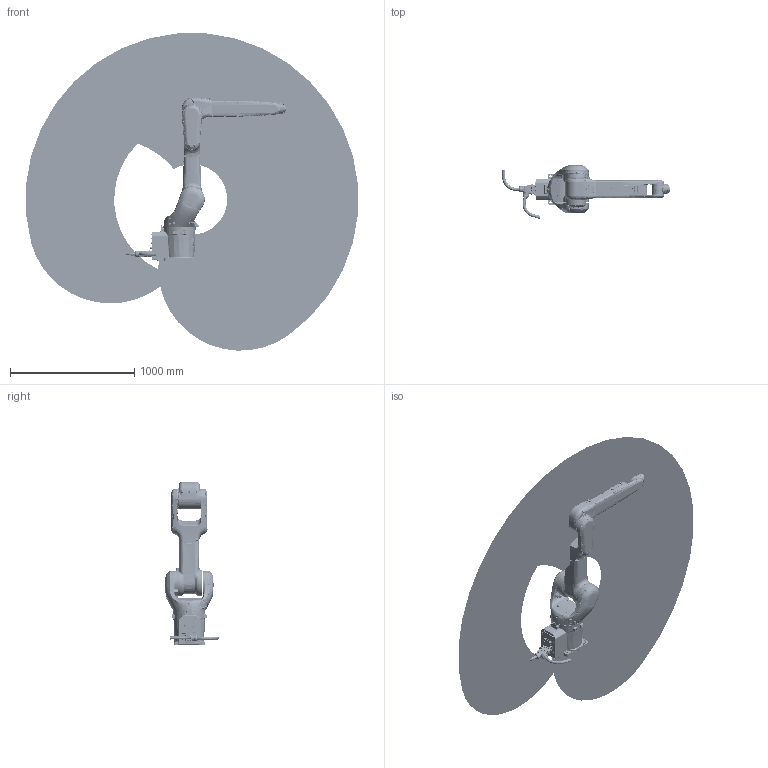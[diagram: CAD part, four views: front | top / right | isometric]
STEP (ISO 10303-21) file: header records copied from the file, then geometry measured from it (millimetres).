
FILE_DESCRIPTION(/* description */ (''),/* implementation_level */ '2;1');
FILE_NAME(/* name */ 'NB12s-1214 简化模型(20220421).stp',/* time_stamp */ '2022-04-21T13:50:43+08:00',/* author */ (''),/* organization */ (''),/* preprocessor_version */ 'ST-DEVELOPER v16',/* originating_system */ 'SIEMENS PLM Software NX 10.0',/* authorisation */ '');
FILE_SCHEMA (('CONFIG_CONTROL_DESIGN'));
Products named in the file (9): NB12s-3DWork-A; NB12-shuchu-A; NB12-shouwan-A; NB12-xiaobiqian-Alogo; NB12-xiaobihou-A; NB12-dabi-A; NB12-yao-A; NB12-base-A; NB12s-1214 简化模型(20220421)
Assembly tree (8 placements, depth 2):
  NB12s-1214 简化模型(20220421)
    NB12-base-A
    NB12-yao-A
    NB12-dabi-A
    NB12-xiaobihou-A
    NB12-xiaobiqian-Alogo
    NB12-shouwan-A
    NB12-shuchu-A
    NB12s-3DWork-A
Bounding box: 2673.57 x 432.33 x 2555.1 mm (x, y, z)
Volume: 48085691.1 mm3; surface area: 7141924.9 mm2
Topology: 37 solids, 94 shells, 10229 faces, 23791 edges, 14082 vertices
Faces by surface type: plane 4574, cylinder 1799, cone 1447, bspline 1160, extrusion 601, torus 572, sphere 70, revolution 6
Full cylindrical faces by diameter (mm): 0.8 x20, 1.1 x20, 2.5 x4, 3.3 x14, 3.464 x10, 3.5 x4, 3.838 x32, 4.1 x4, 4.2 x21, 4.5 x41, 4.826 x4, 5 x9, 5.13 x8, 5.5 x32, 5.795 x2, 6.5 x16, 6.8 x2, 7 x96, 7.76 x5, 7.782 x2, 8.4 x14, 8.5 x5, 8.6 x2, 9 x2, 9.728 x1, 10 x7, 10.1 x1, 10.272 x1, 10.3 x4, 11 x9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
Entity records: 399576 total; most frequent: CARTESIAN_POINT 184649, ORIENTED_EDGE 44301, DIRECTION 41556, EDGE_CURVE 22154, AXIS2_PLACEMENT_3D 15796, VERTEX_POINT 13739, EDGE_LOOP 11959, ADVANCED_FACE 10224
